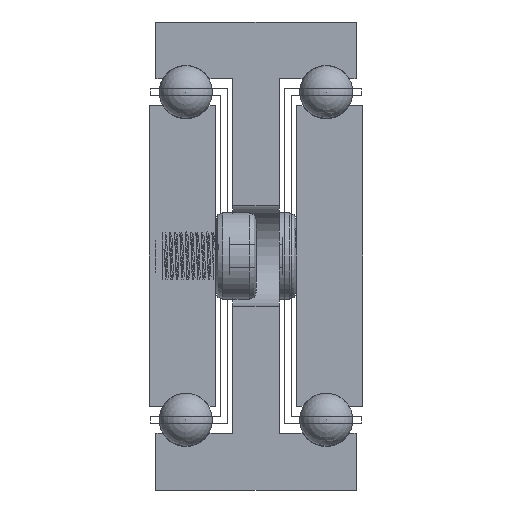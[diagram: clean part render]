
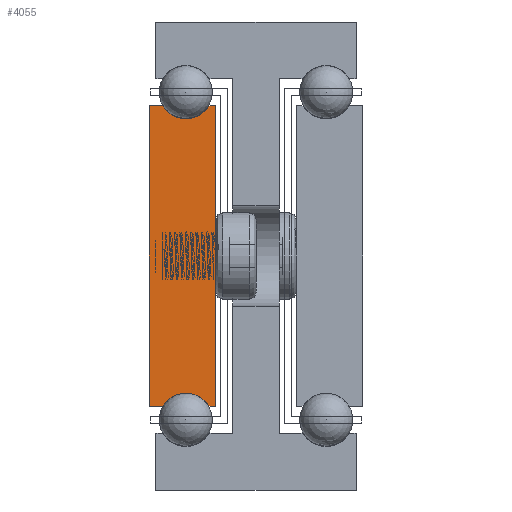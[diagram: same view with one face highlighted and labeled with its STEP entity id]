
A CAD part, front view. The second image highlights one B-rep face of the part: STEP entity #4055.
In plain terms, the highlighted planar face has unit normal (0, -1, 0).
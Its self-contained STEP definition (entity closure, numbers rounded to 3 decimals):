
#300=LINE('',#6162,#512);
#303=LINE('',#6168,#515);
#307=LINE('',#6180,#519);
#310=LINE('',#6186,#522);
#313=LINE('',#6192,#525);
#317=LINE('',#6202,#529);
#512=VECTOR('',#4922,1.);
#515=VECTOR('',#4927,1.);
#519=VECTOR('',#4939,1.);
#522=VECTOR('',#4944,1.);
#525=VECTOR('',#4949,1.);
#529=VECTOR('',#4961,1.);
#729=PLANE('',#4375);
#1061=FACE_OUTER_BOUND('',#1307,.T.);
#1307=EDGE_LOOP('',(#3176,#3177,#3178,#3179,#3180,#3181,#3182,#3183));
#1721=CIRCLE('',#4366,4.);
#1723=CIRCLE('',#4372,4.);
#2034=VERTEX_POINT('',#6159);
#2035=VERTEX_POINT('',#6161);
#2037=VERTEX_POINT('',#6167);
#2039=VERTEX_POINT('',#6173);
#2041=VERTEX_POINT('',#6179);
#2043=VERTEX_POINT('',#6185);
#2045=VERTEX_POINT('',#6191);
#2047=VERTEX_POINT('',#6197);
#2568=EDGE_CURVE('',#2035,#2034,#300,.T.);
#2571=EDGE_CURVE('',#2037,#2035,#303,.T.);
#2574=EDGE_CURVE('',#2039,#2037,#1721,.T.);
#2577=EDGE_CURVE('',#2041,#2039,#307,.T.);
#2580=EDGE_CURVE('',#2043,#2041,#310,.T.);
#2583=EDGE_CURVE('',#2045,#2043,#313,.T.);
#2586=EDGE_CURVE('',#2047,#2045,#1723,.T.);
#2589=EDGE_CURVE('',#2034,#2047,#317,.T.);
#3176=ORIENTED_EDGE('',*,*,#2589,.T.);
#3177=ORIENTED_EDGE('',*,*,#2586,.T.);
#3178=ORIENTED_EDGE('',*,*,#2583,.T.);
#3179=ORIENTED_EDGE('',*,*,#2580,.T.);
#3180=ORIENTED_EDGE('',*,*,#2577,.T.);
#3181=ORIENTED_EDGE('',*,*,#2574,.T.);
#3182=ORIENTED_EDGE('',*,*,#2571,.T.);
#3183=ORIENTED_EDGE('',*,*,#2568,.T.);
#4055=ADVANCED_FACE('',(#1061),#729,.T.);
#4366=AXIS2_PLACEMENT_3D('',#6174,#4933,#4934);
#4372=AXIS2_PLACEMENT_3D('',#6198,#4955,#4956);
#4375=AXIS2_PLACEMENT_3D('',#6204,#4964,#4965);
#4922=DIRECTION('',(0.,0.,-1.));
#4927=DIRECTION('',(-1.,0.,0.));
#4933=DIRECTION('center_axis',(0.,1.,0.));
#4934=DIRECTION('ref_axis',(-0.866,0.,-0.5));
#4939=DIRECTION('',(-1.,0.,0.));
#4944=DIRECTION('',(0.,0.,1.));
#4949=DIRECTION('',(1.,0.,0.));
#4955=DIRECTION('center_axis',(0.,1.,0.));
#4956=DIRECTION('ref_axis',(0.866,0.,0.5));
#4961=DIRECTION('',(1.,0.,0.));
#4964=DIRECTION('center_axis',(0.,-1.,0.));
#4965=DIRECTION('ref_axis',(1.,0.,0.));
#6159=CARTESIAN_POINT('',(5457.567,152.826,577.5));
#6161=CARTESIAN_POINT('',(5457.567,152.826,622.5));
#6162=CARTESIAN_POINT('',(5457.567,152.826,577.5));
#6167=CARTESIAN_POINT('',(5459.603,152.826,622.5));
#6168=CARTESIAN_POINT('',(5457.567,152.826,622.5));
#6173=CARTESIAN_POINT('',(5466.531,152.826,622.5));
#6174=CARTESIAN_POINT('Origin',(5463.067,152.826,624.5));
#6179=CARTESIAN_POINT('',(5467.567,152.826,622.5));
#6180=CARTESIAN_POINT('',(5466.531,152.826,622.5));
#6185=CARTESIAN_POINT('',(5467.567,152.826,577.5));
#6186=CARTESIAN_POINT('',(5467.567,152.826,622.5));
#6191=CARTESIAN_POINT('',(5466.531,152.826,577.5));
#6192=CARTESIAN_POINT('',(5467.567,152.826,577.5));
#6197=CARTESIAN_POINT('',(5459.603,152.826,577.5));
#6198=CARTESIAN_POINT('Origin',(5463.067,152.826,575.5));
#6202=CARTESIAN_POINT('',(5459.603,152.826,577.5));
#6204=CARTESIAN_POINT('Origin',(5462.561,152.826,600.));
